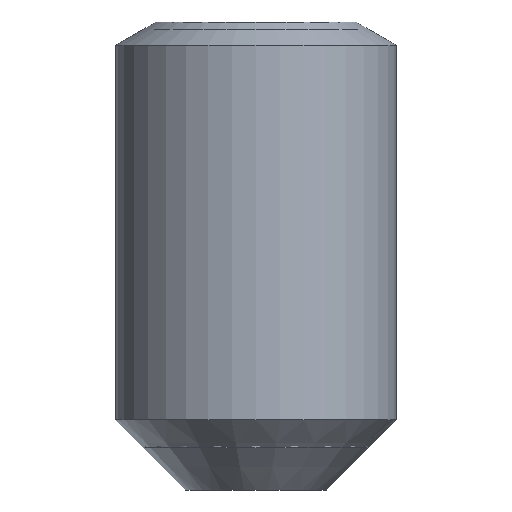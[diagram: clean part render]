
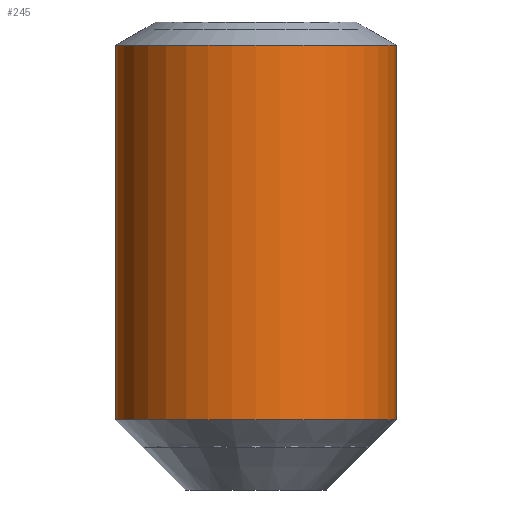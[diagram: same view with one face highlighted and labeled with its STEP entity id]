
A CAD part, front view. The second image highlights one B-rep face of the part: STEP entity #245.
In plain terms, the highlighted cylindrical face has radius 3 mm (diameter 6 mm), a partial arc.
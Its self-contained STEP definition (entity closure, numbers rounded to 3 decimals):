
#12=CARTESIAN_POINT('',(0.,0.,1.5));
#13=DIRECTION('',(0.,0.,1.));
#14=DIRECTION('',(-1.,0.,0.));
#15=AXIS2_PLACEMENT_3D('',#12,#13,#14);
#30=DIRECTION('',(0.,0.,1.));
#31=VECTOR('',#30,8.);
#32=CARTESIAN_POINT('',(3.,0.,1.5));
#33=LINE('',#32,#31);
#34=DIRECTION('',(0.,0.,1.));
#35=VECTOR('',#34,8.);
#36=CARTESIAN_POINT('',(-3.,0.,1.5));
#37=LINE('',#36,#35);
#38=CARTESIAN_POINT('',(0.,0.,9.5));
#39=DIRECTION('',(0.,0.,1.));
#40=DIRECTION('',(-1.,0.,0.));
#41=AXIS2_PLACEMENT_3D('',#38,#39,#40);
#166=CARTESIAN_POINT('',(3.,0.,9.5));
#167=CARTESIAN_POINT('',(-3.,0.,9.5));
#168=VERTEX_POINT('',#166);
#169=VERTEX_POINT('',#167);
#174=CARTESIAN_POINT('',(3.,0.,1.5));
#175=CARTESIAN_POINT('',(-3.,0.,1.5));
#176=VERTEX_POINT('',#174);
#177=VERTEX_POINT('',#175);
#233=CARTESIAN_POINT('',(0.,0.,0.));
#234=DIRECTION('',(0.,0.,1.));
#235=DIRECTION('',(1.,0.,0.));
#236=AXIS2_PLACEMENT_3D('',#233,#234,#235);
#237=CYLINDRICAL_SURFACE('',#236,3.);
#238=ORIENTED_EDGE('',*,*,#198,.F.);
#239=ORIENTED_EDGE('',*,*,#228,.T.);
#241=ORIENTED_EDGE('',*,*,#240,.T.);
#242=ORIENTED_EDGE('',*,*,#224,.F.);
#243=EDGE_LOOP('',(#238,#239,#241,#242));
#244=FACE_OUTER_BOUND('',#243,.F.);
#245=ADVANCED_FACE('',(#244),#237,.T.);
#16=CIRCLE('',#15,3.);
#42=CIRCLE('',#41,3.);
#198=EDGE_CURVE('',#177,#176,#16,.T.);
#224=EDGE_CURVE('',#176,#168,#33,.T.);
#228=EDGE_CURVE('',#177,#169,#37,.T.);
#240=EDGE_CURVE('',#169,#168,#42,.T.);
